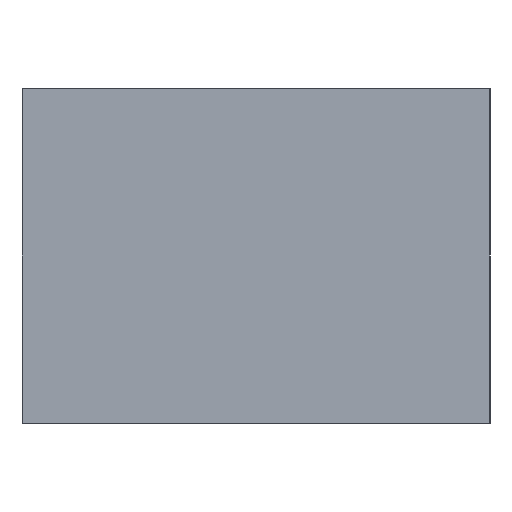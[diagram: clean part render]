
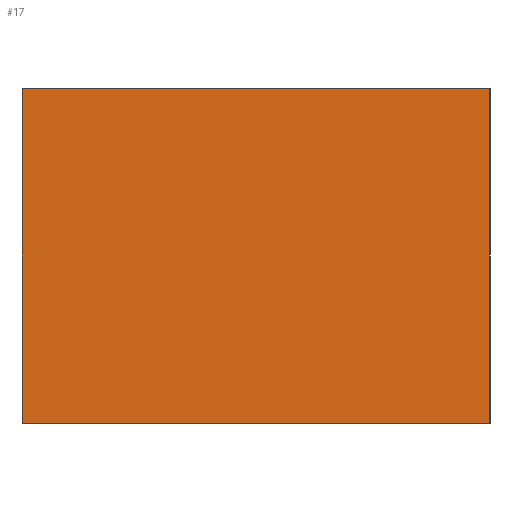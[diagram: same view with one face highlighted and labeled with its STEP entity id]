
A CAD part, left-side view. The second image highlights one B-rep face of the part: STEP entity #17.
In plain terms, the highlighted planar face has unit normal (-1, 0, 0).
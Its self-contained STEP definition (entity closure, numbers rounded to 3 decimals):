
#17 = ADVANCED_FACE('',(#18),#32,.F.);
#18 = FACE_BOUND('',#19,.F.);
#19 = EDGE_LOOP('',(#20,#55,#83,#111));
#20 = ORIENTED_EDGE('',*,*,#21,.F.);
#21 = EDGE_CURVE('',#22,#24,#26,.T.);
#22 = VERTEX_POINT('',#23);
#23 = CARTESIAN_POINT('',(54.,-87.913,192.));
#24 = VERTEX_POINT('',#25);
#25 = CARTESIAN_POINT('',(54.,-87.913,202.));
#26 = SURFACE_CURVE('',#27,(#31,#43),.PCURVE_S1.);
#27 = LINE('',#28,#29);
#28 = CARTESIAN_POINT('',(54.,-87.913,192.));
#29 = VECTOR('',#30,1.);
#30 = DIRECTION('',(0.,0.,1.));
#31 = PCURVE('',#32,#37);
#32 = PLANE('',#33);
#33 = AXIS2_PLACEMENT_3D('',#34,#35,#36);
#34 = CARTESIAN_POINT('',(54.,-87.913,192.));
#35 = DIRECTION('',(1.,0.,-0.));
#36 = DIRECTION('',(0.,0.,1.));
#37 = DEFINITIONAL_REPRESENTATION('',(#38),#42);
#38 = LINE('',#39,#40);
#39 = CARTESIAN_POINT('',(0.,0.));
#40 = VECTOR('',#41,1.);
#41 = DIRECTION('',(1.,0.));
#42 = ( GEOMETRIC_REPRESENTATION_CONTEXT(2) 
PARAMETRIC_REPRESENTATION_CONTEXT() REPRESENTATION_CONTEXT('2D SPACE',''
  ) );
#43 = PCURVE('',#44,#49);
#44 = PLANE('',#45);
#45 = AXIS2_PLACEMENT_3D('',#46,#47,#48);
#46 = CARTESIAN_POINT('',(54.,-87.913,192.));
#47 = DIRECTION('',(-0.,1.,0.));
#48 = DIRECTION('',(0.,0.,1.));
#49 = DEFINITIONAL_REPRESENTATION('',(#50),#54);
#50 = LINE('',#51,#52);
#51 = CARTESIAN_POINT('',(0.,0.));
#52 = VECTOR('',#53,1.);
#53 = DIRECTION('',(1.,0.));
#54 = ( GEOMETRIC_REPRESENTATION_CONTEXT(2) 
PARAMETRIC_REPRESENTATION_CONTEXT() REPRESENTATION_CONTEXT('2D SPACE',''
  ) );
#55 = ORIENTED_EDGE('',*,*,#56,.T.);
#56 = EDGE_CURVE('',#22,#57,#59,.T.);
#57 = VERTEX_POINT('',#58);
#58 = CARTESIAN_POINT('',(54.,-73.913,192.));
#59 = SURFACE_CURVE('',#60,(#64,#71),.PCURVE_S1.);
#60 = LINE('',#61,#62);
#61 = CARTESIAN_POINT('',(54.,-87.913,192.));
#62 = VECTOR('',#63,1.);
#63 = DIRECTION('',(-0.,1.,0.));
#64 = PCURVE('',#32,#65);
#65 = DEFINITIONAL_REPRESENTATION('',(#66),#70);
#66 = LINE('',#67,#68);
#67 = CARTESIAN_POINT('',(0.,0.));
#68 = VECTOR('',#69,1.);
#69 = DIRECTION('',(0.,-1.));
#70 = ( GEOMETRIC_REPRESENTATION_CONTEXT(2) 
PARAMETRIC_REPRESENTATION_CONTEXT() REPRESENTATION_CONTEXT('2D SPACE',''
  ) );
#71 = PCURVE('',#72,#77);
#72 = PLANE('',#73);
#73 = AXIS2_PLACEMENT_3D('',#74,#75,#76);
#74 = CARTESIAN_POINT('',(54.,-87.913,192.));
#75 = DIRECTION('',(0.,0.,1.));
#76 = DIRECTION('',(1.,0.,-0.));
#77 = DEFINITIONAL_REPRESENTATION('',(#78),#82);
#78 = LINE('',#79,#80);
#79 = CARTESIAN_POINT('',(0.,0.));
#80 = VECTOR('',#81,1.);
#81 = DIRECTION('',(0.,1.));
#82 = ( GEOMETRIC_REPRESENTATION_CONTEXT(2) 
PARAMETRIC_REPRESENTATION_CONTEXT() REPRESENTATION_CONTEXT('2D SPACE',''
  ) );
#83 = ORIENTED_EDGE('',*,*,#84,.T.);
#84 = EDGE_CURVE('',#57,#85,#87,.T.);
#85 = VERTEX_POINT('',#86);
#86 = CARTESIAN_POINT('',(54.,-73.913,202.));
#87 = SURFACE_CURVE('',#88,(#92,#99),.PCURVE_S1.);
#88 = LINE('',#89,#90);
#89 = CARTESIAN_POINT('',(54.,-73.913,192.));
#90 = VECTOR('',#91,1.);
#91 = DIRECTION('',(0.,0.,1.));
#92 = PCURVE('',#32,#93);
#93 = DEFINITIONAL_REPRESENTATION('',(#94),#98);
#94 = LINE('',#95,#96);
#95 = CARTESIAN_POINT('',(0.,-14.));
#96 = VECTOR('',#97,1.);
#97 = DIRECTION('',(1.,0.));
#98 = ( GEOMETRIC_REPRESENTATION_CONTEXT(2) 
PARAMETRIC_REPRESENTATION_CONTEXT() REPRESENTATION_CONTEXT('2D SPACE',''
  ) );
#99 = PCURVE('',#100,#105);
#100 = PLANE('',#101);
#101 = AXIS2_PLACEMENT_3D('',#102,#103,#104);
#102 = CARTESIAN_POINT('',(54.,-73.913,192.));
#103 = DIRECTION('',(-0.,1.,0.));
#104 = DIRECTION('',(0.,0.,1.));
#105 = DEFINITIONAL_REPRESENTATION('',(#106),#110);
#106 = LINE('',#107,#108);
#107 = CARTESIAN_POINT('',(0.,0.));
#108 = VECTOR('',#109,1.);
#109 = DIRECTION('',(1.,0.));
#110 = ( GEOMETRIC_REPRESENTATION_CONTEXT(2) 
PARAMETRIC_REPRESENTATION_CONTEXT() REPRESENTATION_CONTEXT('2D SPACE',''
  ) );
#111 = ORIENTED_EDGE('',*,*,#112,.F.);
#112 = EDGE_CURVE('',#24,#85,#113,.T.);
#113 = SURFACE_CURVE('',#114,(#118,#125),.PCURVE_S1.);
#114 = LINE('',#115,#116);
#115 = CARTESIAN_POINT('',(54.,-87.913,202.));
#116 = VECTOR('',#117,1.);
#117 = DIRECTION('',(-0.,1.,0.));
#118 = PCURVE('',#32,#119);
#119 = DEFINITIONAL_REPRESENTATION('',(#120),#124);
#120 = LINE('',#121,#122);
#121 = CARTESIAN_POINT('',(10.,0.));
#122 = VECTOR('',#123,1.);
#123 = DIRECTION('',(0.,-1.));
#124 = ( GEOMETRIC_REPRESENTATION_CONTEXT(2) 
PARAMETRIC_REPRESENTATION_CONTEXT() REPRESENTATION_CONTEXT('2D SPACE',''
  ) );
#125 = PCURVE('',#126,#131);
#126 = PLANE('',#127);
#127 = AXIS2_PLACEMENT_3D('',#128,#129,#130);
#128 = CARTESIAN_POINT('',(54.,-87.913,202.));
#129 = DIRECTION('',(0.,0.,1.));
#130 = DIRECTION('',(1.,0.,-0.));
#131 = DEFINITIONAL_REPRESENTATION('',(#132),#136);
#132 = LINE('',#133,#134);
#133 = CARTESIAN_POINT('',(0.,0.));
#134 = VECTOR('',#135,1.);
#135 = DIRECTION('',(0.,1.));
#136 = ( GEOMETRIC_REPRESENTATION_CONTEXT(2) 
PARAMETRIC_REPRESENTATION_CONTEXT() REPRESENTATION_CONTEXT('2D SPACE',''
  ) );
